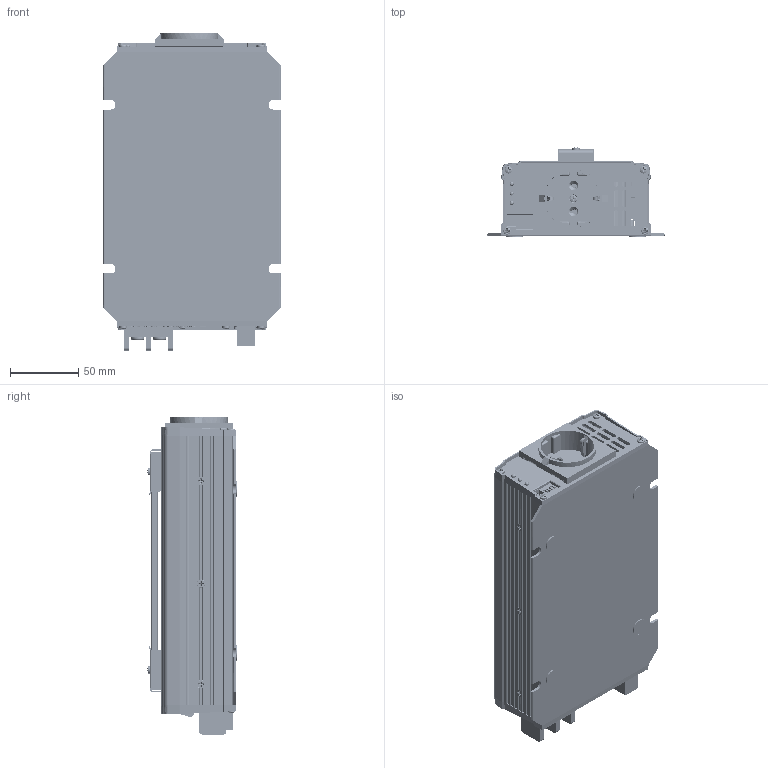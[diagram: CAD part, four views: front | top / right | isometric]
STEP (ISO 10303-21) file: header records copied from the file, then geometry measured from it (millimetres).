
FILE_DESCRIPTION(('Creo Elements/Direct Modeling STEP Export'),'2;1');
FILE_NAME('NTS-450EU.stp','2021-04-16T19:50:36',(''),(''),'PTC Creo Elements/Direct Modeling STEP processor for AP214 (Solid Model)','PTC Creo Elements/Direct Modeling 19.0A 04-Oct-2014 (C) Parametric Technology GmbH','');
FILE_SCHEMA(('AUTOMOTIVE_DESIGN { 1 0 10303 214 1 1 1 1 }'));
Length unit declared in the file: millimetre
Products named in the file (137): CASE1下盖22; M3-5.5-3; 77; M3-5.5-1; M3-5.5-2; 下盖; FOOT_PAD_7_1.PRT.29; FOOT_PAD_7_1.PRT; FOOT_PAD_7_1.PRT.31; FOOT_PAD_7_1.PRT.30; PAD; 上盖; 19-30281-0250__w__.1; 19-30281-0250__w__.2.1; 19-30281-0250__w__.2.1.1; 19-30281-0250__w__.2; 19-30281-0250__w__.2.1.1.1; 19-30281-0250__w__; 19-30286-1312__w__.1.1.1.1; 19-30286-1312__w__.1.1.1; 19-30286-1312__w__.1; 19-30286-1312__w__.1.1; 面板螺丝; 面板螺丝2; 19-30286-1312__w__.1.2; 19-30286-1312__w__.1.2.1; 螺丝; 1HH2NTS-450; p1; 1.4; 1.5; 1.3; 1.2; 1.1; 1.6; 2.2; 2.1; 2.5; 2.4; 2.3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
Assembly tree (139 placements, depth 5):
  NTS-450
    风扇螺丝
      19-30286-1312__w__.1.2.1.1.1
      19-30286-1312__w__.1.2.1.1
      19-30286-1312__w__.1.2.1
      19-30286-1312__w__.1.2
    FAN
      26D77668-81B1-466B-87E3--601440.PRT
    1XX3NTS-450-I
    1xx3NTS-450UK-O
      1xx3NTS-450UK-O
    把手
      174
      guwei1
      guwei1.1
    E-08.欧插
      E-08_1.ASM
        E08B_SERIES1.PRT
        E08-4.PRT  x3
        E08_3.PRT  x2
        E08_001_SERIES_ASM.ASM
          E08_001_3.PRT
          E08_001_4.PRT
        E08-6.PRT
        E08_SERIES1.PRT
        E08-5.PRT
    输入端装配2
      ON.PRT.1
      FG.1
      TN_1
    装配2
      TF
      c2.1
      c2
      CX2
      CX1
      CX1.1
      CX2.1
      CX1.1.1
      C
    HS
      1GG1HS-SZ137.1
      1GG1HS-SZ137
      1GG4CU-SZ028
      1GG4CU-SZ030
      1GG4CU-SZ029
      1GG1HS-SZ137old
      1GG1HS-SZ138
      1GG1HS-SZ129
        PIN2-2.1
        PIN2-2
        SZ1
      1GG1HS-SZ130
        PIN2-2.1
        PIN2-2
        SZ1
    MOS
      TO220(2).2.1.1.1.2.2.1.1.1
      TO220(2).2.1.1.1.2.2.1.1
      TO220(2).2.1.1.1.2.2.1
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Bounding box: 130 x 65.32 x 232.11 mm (x, y, z)
Volume: 453668.7 mm3; surface area: 434380.5 mm2
Topology: 112 solids, 115 shells, 7278 faces, 19331 edges, 12316 vertices
Faces by surface type: plane 5019, cylinder 1440, cone 292, bspline 235, sphere 144, torus 144, extrusion 4
Entity records: 258998 total; most frequent: CARTESIAN_POINT 76854, ORIENTED_EDGE 36667, DIRECTION 32007, EDGE_CURVE 18334, VECTOR 13595, LINE 13591, VERTEX_POINT 11840, AXIS2_PLACEMENT_3D 9206
